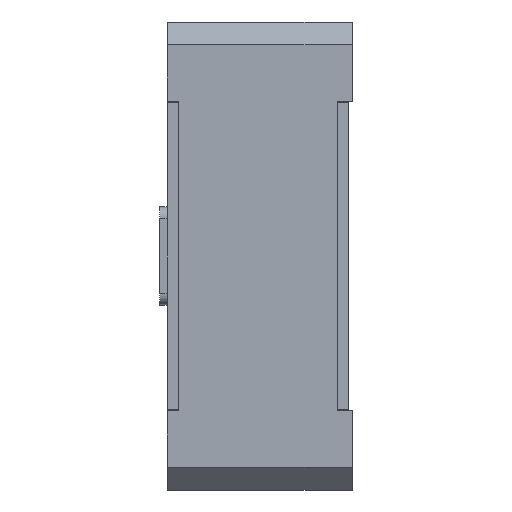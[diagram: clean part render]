
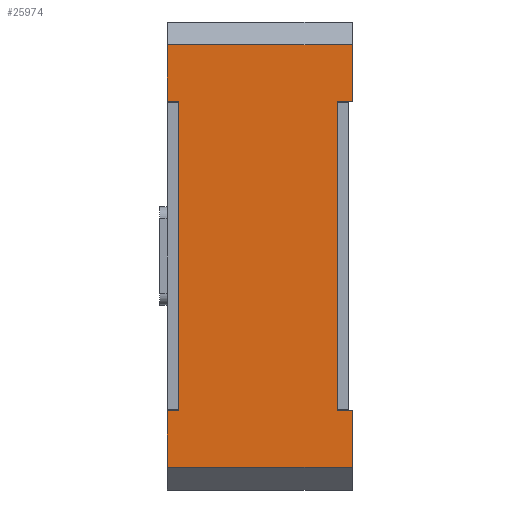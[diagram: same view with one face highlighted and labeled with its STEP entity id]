
A CAD part, left-side view. The second image highlights one B-rep face of the part: STEP entity #25974.
In plain terms, the highlighted planar face has unit normal (-1, 0, 0).
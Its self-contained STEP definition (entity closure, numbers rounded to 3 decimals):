
#21 = VECTOR ( 'NONE', #25885, 1000. ) ;
#144 = LINE ( 'NONE', #10807, #18097 ) ;
#634 = EDGE_CURVE ( 'NONE', #16443, #8647, #6240, .T. ) ;
#716 = CARTESIAN_POINT ( 'NONE',  ( -65., 14.5, -20.5 ) ) ;
#766 = ORIENTED_EDGE ( 'NONE', *, *, #12616, .T. ) ;
#1204 = ORIENTED_EDGE ( 'NONE', *, *, #2016, .T. ) ;
#1664 = VERTEX_POINT ( 'NONE', #12067 ) ;
#2016 = EDGE_CURVE ( 'NONE', #20893, #16443, #12306, .T. ) ;
#2364 = CARTESIAN_POINT ( 'NONE',  ( -65., 14.5, -20.5 ) ) ;
#2993 = CARTESIAN_POINT ( 'NONE',  ( -65., -10., 0. ) ) ;
#3150 = DIRECTION ( 'NONE',  ( 0., -1., 0. ) ) ;
#3284 = DIRECTION ( 'NONE',  ( 0., -1., 0. ) ) ;
#3990 = EDGE_CURVE ( 'NONE', #29022, #4093, #12509, .T. ) ;
#4033 = EDGE_CURVE ( 'NONE', #20893, #25667, #28317, .T. ) ;
#4093 = VERTEX_POINT ( 'NONE', #716 ) ;
#4194 = ORIENTED_EDGE ( 'NONE', *, *, #3990, .F. ) ;
#5122 = CARTESIAN_POINT ( 'NONE',  ( -65., -8., -20.5 ) ) ;
#5643 = VERTEX_POINT ( 'NONE', #7748 ) ;
#5936 = VECTOR ( 'NONE', #27156, 1000. ) ;
#6187 = VERTEX_POINT ( 'NONE', #12838 ) ;
#6240 = LINE ( 'NONE', #22074, #17989 ) ;
#6485 = EDGE_CURVE ( 'NONE', #6187, #21377, #28658, .T. ) ;
#6911 = CARTESIAN_POINT ( 'NONE',  ( -65., 12., 0. ) ) ;
#7748 = CARTESIAN_POINT ( 'NONE',  ( -65., -10., -28. ) ) ;
#8625 = EDGE_CURVE ( 'NONE', #4093, #21041, #20519, .T. ) ;
#8647 = VERTEX_POINT ( 'NONE', #19210 ) ;
#8923 = ORIENTED_EDGE ( 'NONE', *, *, #8625, .F. ) ;
#9243 = LINE ( 'NONE', #20554, #14427 ) ;
#10434 = LINE ( 'NONE', #2993, #25467 ) ;
#10460 = EDGE_CURVE ( 'NONE', #6187, #24333, #144, .T. ) ;
#10807 = CARTESIAN_POINT ( 'NONE',  ( -65., 14.5, 28. ) ) ;
#10913 = CARTESIAN_POINT ( 'NONE',  ( -65., 12., 28. ) ) ;
#11076 = DIRECTION ( 'NONE',  ( 0., 0., 1. ) ) ;
#11687 = FACE_OUTER_BOUND ( 'NONE', #18662, .T. ) ;
#11796 = DIRECTION ( 'NONE',  ( 0., -1., 0. ) ) ;
#11841 = ORIENTED_EDGE ( 'NONE', *, *, #21934, .F. ) ;
#12067 = CARTESIAN_POINT ( 'NONE',  ( -65., -10., 28. ) ) ;
#12306 = LINE ( 'NONE', #27432, #17400 ) ;
#12509 = LINE ( 'NONE', #2364, #21 ) ;
#12616 = EDGE_CURVE ( 'NONE', #1664, #24333, #17687, .T. ) ;
#12693 = DIRECTION ( 'NONE',  ( 0., -1., 0. ) ) ;
#12838 = CARTESIAN_POINT ( 'NONE',  ( -65., 14.5, 20.5 ) ) ;
#13182 = ORIENTED_EDGE ( 'NONE', *, *, #4033, .F. ) ;
#13838 = DIRECTION ( 'NONE',  ( 0., 0., 1. ) ) ;
#14006 = LINE ( 'NONE', #29878, #28727 ) ;
#14228 = DIRECTION ( 'NONE',  ( 1., 0., 0. ) ) ;
#14332 = VECTOR ( 'NONE', #12693, 1000. ) ;
#14427 = VECTOR ( 'NONE', #29850, 1000. ) ;
#15036 = CARTESIAN_POINT ( 'NONE',  ( -65., -10., -20.5 ) ) ;
#15411 = DIRECTION ( 'NONE',  ( 0., 0., 1. ) ) ;
#15617 = LINE ( 'NONE', #20782, #23345 ) ;
#16443 = VERTEX_POINT ( 'NONE', #26392 ) ;
#16652 = EDGE_CURVE ( 'NONE', #29022, #5643, #14006, .T. ) ;
#17152 = CARTESIAN_POINT ( 'NONE',  ( -65., 14.5, -20.5 ) ) ;
#17157 = ORIENTED_EDGE ( 'NONE', *, *, #16652, .T. ) ;
#17400 = VECTOR ( 'NONE', #11076, 1000. ) ;
#17687 = LINE ( 'NONE', #10913, #5936 ) ;
#17989 = VECTOR ( 'NONE', #3150, 1000. ) ;
#18050 = CARTESIAN_POINT ( 'NONE',  ( -65., 14.5, -28. ) ) ;
#18089 = PLANE ( 'NONE',  #20993 ) ;
#18097 = VECTOR ( 'NONE', #15411, 1000. ) ;
#18122 = ORIENTED_EDGE ( 'NONE', *, *, #29491, .T. ) ;
#18659 = ORIENTED_EDGE ( 'NONE', *, *, #6485, .T. ) ;
#18662 = EDGE_LOOP ( 'NONE', ( #18659, #11841, #8923, #4194, #17157, #18122, #13182, #1204, #21274, #28648, #766, #21148 ) ) ;
#19036 = CARTESIAN_POINT ( 'NONE',  ( -65., -8., -20.5 ) ) ;
#19210 = CARTESIAN_POINT ( 'NONE',  ( -65., -10., 20.5 ) ) ;
#20182 = EDGE_CURVE ( 'NONE', #8647, #1664, #9243, .T. ) ;
#20519 = LINE ( 'NONE', #17152, #14332 ) ;
#20537 = VECTOR ( 'NONE', #11796, 1000. ) ;
#20554 = CARTESIAN_POINT ( 'NONE',  ( -65., -10., 0. ) ) ;
#20782 = CARTESIAN_POINT ( 'NONE',  ( -65., 13., -31. ) ) ;
#20893 = VERTEX_POINT ( 'NONE', #5122 ) ;
#20993 = AXIS2_PLACEMENT_3D ( 'NONE', #6911, #14228, #27995 ) ;
#21041 = VERTEX_POINT ( 'NONE', #24361 ) ;
#21148 = ORIENTED_EDGE ( 'NONE', *, *, #10460, .F. ) ;
#21274 = ORIENTED_EDGE ( 'NONE', *, *, #634, .T. ) ;
#21377 = VERTEX_POINT ( 'NONE', #25462 ) ;
#21926 = DIRECTION ( 'NONE',  ( 0., 0., 1. ) ) ;
#21934 = EDGE_CURVE ( 'NONE', #21041, #21377, #15617, .T. ) ;
#22074 = CARTESIAN_POINT ( 'NONE',  ( -65., -10., 20.5 ) ) ;
#22703 = CARTESIAN_POINT ( 'NONE',  ( -65., 14.5, 28. ) ) ;
#23345 = VECTOR ( 'NONE', #13838, 1000. ) ;
#23375 = DIRECTION ( 'NONE',  ( 0., -1., 0. ) ) ;
#24333 = VERTEX_POINT ( 'NONE', #22703 ) ;
#24361 = CARTESIAN_POINT ( 'NONE',  ( -65., 13., -20.5 ) ) ;
#25462 = CARTESIAN_POINT ( 'NONE',  ( -65., 13., 20.5 ) ) ;
#25467 = VECTOR ( 'NONE', #21926, 1000. ) ;
#25667 = VERTEX_POINT ( 'NONE', #15036 ) ;
#25704 = VECTOR ( 'NONE', #23375, 1000. ) ;
#25885 = DIRECTION ( 'NONE',  ( 0., 0., 1. ) ) ;
#25974 = ADVANCED_FACE ( 'NONE', ( #11687 ), #18089, .F. ) ;
#26392 = CARTESIAN_POINT ( 'NONE',  ( -65., -8., 20.5 ) ) ;
#27156 = DIRECTION ( 'NONE',  ( 0., 1., 0. ) ) ;
#27432 = CARTESIAN_POINT ( 'NONE',  ( -65., -8., 0. ) ) ;
#27995 = DIRECTION ( 'NONE',  ( 0., 0., -1. ) ) ;
#28317 = LINE ( 'NONE', #19036, #20537 ) ;
#28648 = ORIENTED_EDGE ( 'NONE', *, *, #20182, .T. ) ;
#28658 = LINE ( 'NONE', #30392, #25704 ) ;
#28727 = VECTOR ( 'NONE', #3284, 1000. ) ;
#29022 = VERTEX_POINT ( 'NONE', #18050 ) ;
#29491 = EDGE_CURVE ( 'NONE', #5643, #25667, #10434, .T. ) ;
#29850 = DIRECTION ( 'NONE',  ( 0., 0., 1. ) ) ;
#29878 = CARTESIAN_POINT ( 'NONE',  ( -65., -10., -28. ) ) ;
#30392 = CARTESIAN_POINT ( 'NONE',  ( -65., 14.5, 20.5 ) ) ;
